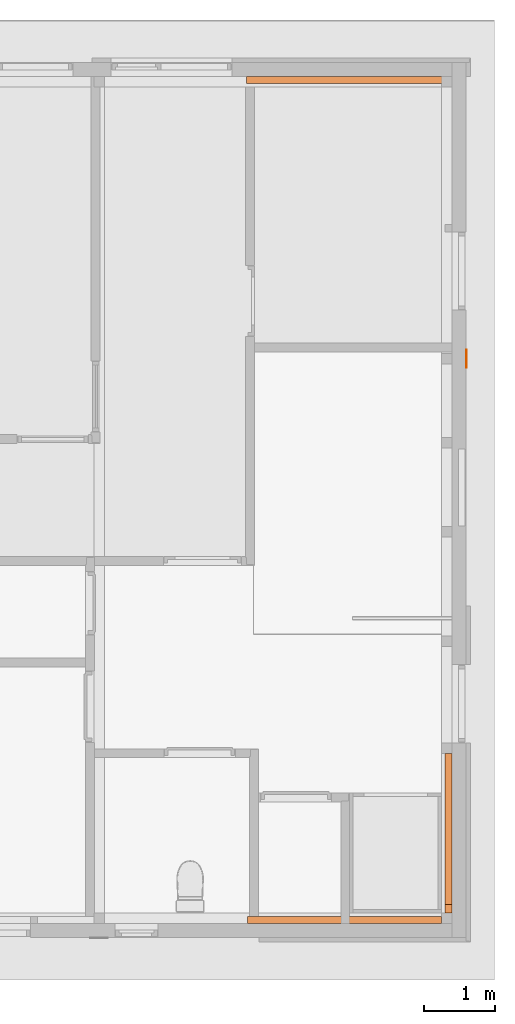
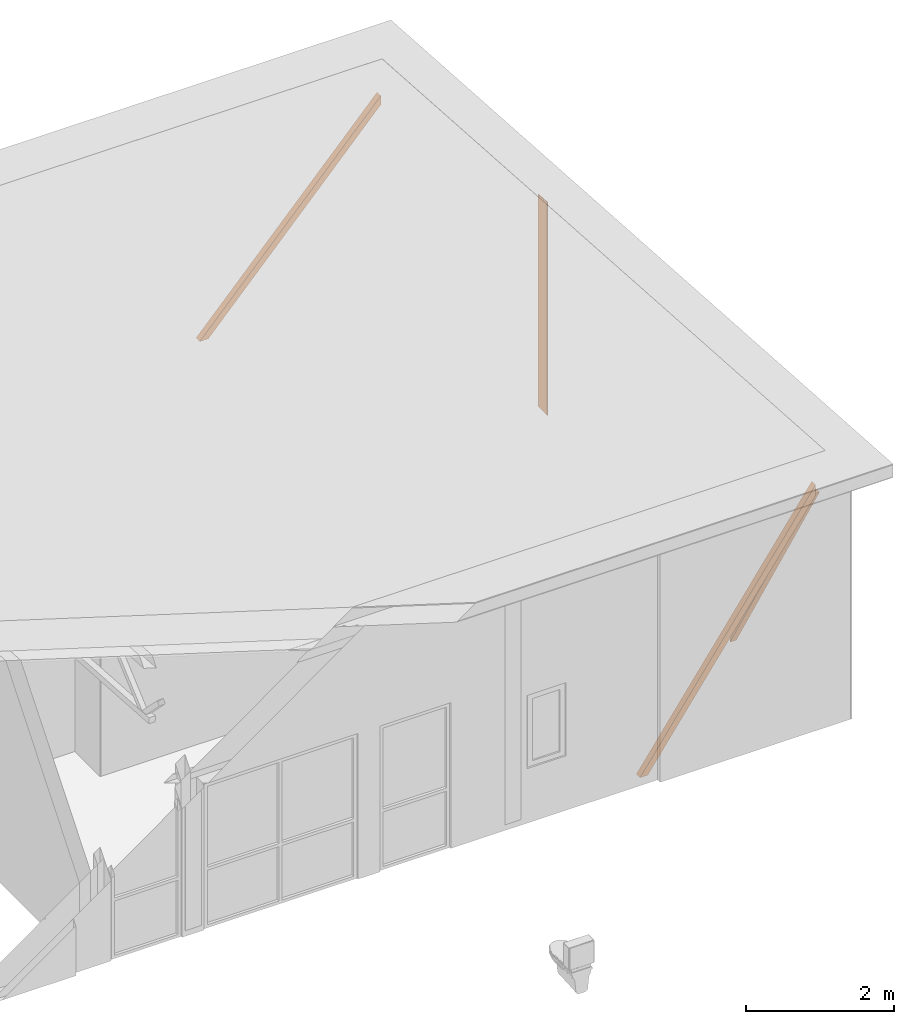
# One storey, part 37 of 37: 4 proxies.
"""IFC2X3 building model written with IfcOpenShell, lengths in millimetres."""

from ifc_helpers import new_model, entity, si_unit, converted_unit, frame, origin, place, context, subcontext, project, spatial, faceted_brep, material, element, save


model = new_model("IFC2X3")

# Units and contexts
model_context = context("Model", 3, precision=1e-05, world=origin())
plan_context = context("Plan", 3, precision=1e-05, world=origin())
body_context = subcontext(model_context, "Body", "Model", "MODEL_VIEW")
ifc_project = project(units=[si_unit("LENGTHUNIT", "METRE", prefix="MILLI"), converted_unit("PLANEANGLEUNIT", "DEGREE", entity("IfcPlaneAngleMeasure", 0.0174532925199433), si_unit("PLANEANGLEUNIT", "RADIAN"), dimensions=[0, 0, 0, 0, 0, 0, 0]), si_unit("AREAUNIT", "SQUARE_METRE"), si_unit("VOLUMEUNIT", "CUBIC_METRE")], contexts=[model_context, plan_context])

# Building, storey
building_placement = place(None, origin())
building = spatial("IfcBuilding", under=ifc_project, at=building_placement, Name="HEKF Administrasjonbygg", CompositionType="ELEMENT")
storey_placement = place(building_placement, frame((0.0, 0.0, 9900.0), z_axis=(0.0, 0.0, 1.0), x_axis=(1.0, 0.0, 0.0)))
storey = spatial("IfcBuildingStorey", under=building, at=storey_placement, Name="Plan 2", CompositionType="ELEMENT", Elevation=9900.0)

# Proxies
ifc_material_1 = material(Name="HUP100x200")
proxy_1_placement = place(storey_placement, frame((27089.54087540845, -100.0100000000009, -30.01000000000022), z_axis=(0.0, 0.0, 1.0), x_axis=(1.0, 0.0, 0.0)))
element("IfcBuildingElementProxy", 1, at=proxy_1_placement, inside=storey, material=ifc_material_1, context=body_context, shape_type="Brep", body=[
    faceted_brep([(0.01000000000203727, 100.01, 0.01000000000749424), (135.995931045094, 100.01, 0.01000000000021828), (2831.909124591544, 100.01, 2925.485574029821), (2831.909124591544, 100.01, 3073.050978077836), (135.995931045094, 0.009999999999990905, 0.01000000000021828), (0.01000000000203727, 0.009999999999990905, 0.01000000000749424), (2831.909124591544, 0.009999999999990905, 3073.050978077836), (2831.909124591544, 0.009999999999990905, 2925.485574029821), (135.995931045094, 100.01, 0.01000000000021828), (0.01000000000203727, 100.01, 0.01000000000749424), (0.01000000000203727, 0.009999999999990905, 0.01000000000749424), (135.995931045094, 0.009999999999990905, 0.01000000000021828), (2831.909124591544, 100.01, 2925.485574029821), (135.995931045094, 100.01, 0.01000000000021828), (135.995931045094, 0.009999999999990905, 0.01000000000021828), (2831.909124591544, 0.009999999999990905, 2925.485574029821), (2831.909124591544, 100.01, 3073.050978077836), (2831.909124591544, 100.01, 2925.485574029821), (2831.909124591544, 0.009999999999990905, 2925.485574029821), (2831.909124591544, 0.009999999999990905, 3073.050978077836), (0.01000000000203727, 100.01, 0.01000000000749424), (2831.909124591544, 100.01, 3073.050978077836), (2831.909124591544, 0.009999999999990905, 3073.050978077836), (0.01000000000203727, 0.009999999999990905, 0.01000000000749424)], [[[0, 1, 2, 3]], [[4, 5, 6, 7]], [[8, 9, 10, 11]], [[12, 13, 14, 15]], [[16, 17, 18, 19]], [[20, 21, 22, 23]]], orient=[[False], [False], [False], [False], [False], [False]]),
])
ifc_material_2 = material(Name="HUP100x200")
proxy_2_placement = place(storey_placement, frame((27103.0397879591, -12000.01, -30.00999999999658), z_axis=(0.0, 0.0, 1.0), x_axis=(1.0, 0.0, 0.0)))
element("IfcBuildingElementProxy", 2, at=proxy_2_placement, inside=storey, material=ifc_material_2, context=body_context, shape_type="Brep", body=[
    faceted_brep([(122.4970184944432, 0.01000000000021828, 0.01000000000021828), (0.00999999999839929, 0.01000000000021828, 0.01000000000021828), (2746.9602120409, 0.01000000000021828, 3883.592284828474), (2746.9602120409, 0.01000000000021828, 3710.422631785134), (0.00999999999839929, 100.0100000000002, 0.01000000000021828), (122.4970184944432, 100.0100000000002, 0.01000000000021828), (2746.9602120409, 100.0100000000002, 3710.422631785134), (2746.9602120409, 100.0100000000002, 3883.592284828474), (0.00999999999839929, 0.01000000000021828, 0.01000000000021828), (122.4970184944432, 0.01000000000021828, 0.01000000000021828), (122.4970184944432, 100.0100000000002, 0.01000000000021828), (0.00999999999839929, 100.0100000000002, 0.01000000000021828), (2746.9602120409, 0.01000000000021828, 3883.592284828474), (0.00999999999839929, 0.01000000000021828, 0.01000000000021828), (0.00999999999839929, 100.0100000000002, 0.01000000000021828), (2746.9602120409, 100.0100000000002, 3883.592284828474), (2746.9602120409, 0.01000000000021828, 3710.422631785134), (2746.9602120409, 0.01000000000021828, 3883.592284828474), (2746.9602120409, 100.0100000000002, 3883.592284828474), (2746.9602120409, 100.0100000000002, 3710.422631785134), (122.4970184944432, 0.01000000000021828, 0.01000000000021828), (2746.9602120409, 0.01000000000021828, 3710.422631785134), (2746.9602120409, 100.0100000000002, 3710.422631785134), (122.4970184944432, 100.0100000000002, 0.01000000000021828)], [[[0, 1, 2, 3]], [[4, 5, 6, 7]], [[8, 9, 10, 11]], [[12, 13, 14, 15]], [[16, 17, 18, 19]], [[20, 21, 22, 23]]], orient=[[False], [False], [False], [False], [False], [False]]),
])
ifc_material_3 = material(Name="HUP100x200")
proxy_3_placement = place(storey_placement, frame((29899.99000000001, -11850.00999999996, -230.0099999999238), z_axis=(0.0, 0.0, 1.0), x_axis=(1.0, 0.0, 0.0)))
element("IfcBuildingElementProxy", 3, at=proxy_3_placement, inside=storey, material=ifc_material_3, context=body_context, shape_type="Brep", body=[
    faceted_brep([(100.0099999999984, 2258.385925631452, 196.4816410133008), (100.0099999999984, 2258.385925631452, 0.01000000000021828), (100.0099999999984, 0.01000000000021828, 3819.344072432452), (100.0099999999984, 120.9513883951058, 3811.281313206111), (0.00999999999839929, 2258.385925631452, 0.01000000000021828), (0.00999999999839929, 2258.385925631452, 196.4816410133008), (0.00999999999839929, 120.9513883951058, 3811.281313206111), (0.00999999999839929, 0.01000000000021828, 3819.344072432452), (100.0099999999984, 2258.385925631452, 0.01000000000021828), (100.0099999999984, 2258.385925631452, 196.4816410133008), (0.00999999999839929, 2258.385925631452, 196.4816410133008), (0.00999999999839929, 2258.385925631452, 0.01000000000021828), (100.0099999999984, 0.01000000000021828, 3819.344072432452), (100.0099999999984, 2258.385925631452, 0.01000000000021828), (0.00999999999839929, 2258.385925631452, 0.01000000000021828), (0.00999999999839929, 0.01000000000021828, 3819.344072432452), (100.0099999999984, 120.9513883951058, 3811.281313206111), (100.0099999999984, 0.01000000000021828, 3819.344072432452), (0.00999999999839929, 0.01000000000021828, 3819.344072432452), (0.00999999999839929, 120.9513883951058, 3811.281313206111), (100.0099999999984, 2258.385925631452, 196.4816410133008), (100.0099999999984, 120.9513883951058, 3811.281313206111), (0.00999999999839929, 120.9513883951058, 3811.281313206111), (0.00999999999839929, 2258.385925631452, 196.4816410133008)], [[[0, 1, 2, 3]], [[4, 5, 6, 7]], [[8, 9, 10, 11]], [[12, 13, 14, 15]], [[16, 17, 18, 19]], [[20, 21, 22, 23]]], orient=[[False], [False], [False], [False], [False], [False]]),
])
ifc_material_4 = material(Name="T24")
proxy_4_placement = place(storey_placement, frame((30199.99, -4125.01, 100.9900000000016), z_axis=(0.0, 0.0, 1.0), x_axis=(1.0, 0.0, 0.0)))
element("IfcBuildingElementProxy", 4, at=proxy_4_placement, inside=storey, material=ifc_material_4, context=body_context, shape_type="Brep", body=[
    faceted_brep([(0.00999999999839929, 250.0100000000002, 0.00999999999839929), (10.0099999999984, 250.0100000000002, 0.00999999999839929), (10.0099999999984, 250.0100000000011, 3507.343333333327), (0.00999999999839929, 250.0100000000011, 3507.343333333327), (0.00999999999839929, 0.01000000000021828, 0.00999999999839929), (10.0099999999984, 0.01000000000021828, 0.00999999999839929), (10.0099999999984, 250.0100000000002, 0.00999999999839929), (0.00999999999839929, 250.0100000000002, 0.00999999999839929), (0.00999999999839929, 0.01000000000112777, 3524.009999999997), (10.0099999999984, 0.01000000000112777, 3524.009999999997), (10.0099999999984, 0.01000000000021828, 0.00999999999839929), (0.00999999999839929, 0.01000000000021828, 0.00999999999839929), (0.00999999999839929, 250.0100000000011, 3507.343333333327), (10.0099999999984, 250.0100000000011, 3507.343333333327), (10.0099999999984, 0.01000000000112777, 3524.009999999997), (0.00999999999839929, 0.01000000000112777, 3524.009999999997), (10.0099999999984, 250.0100000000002, 0.00999999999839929), (10.0099999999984, 0.01000000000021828, 0.00999999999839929), (10.0099999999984, 0.01000000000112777, 3524.009999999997), (10.0099999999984, 250.0100000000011, 3507.343333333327), (0.00999999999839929, 0.01000000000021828, 0.00999999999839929), (0.00999999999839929, 250.0100000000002, 0.00999999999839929), (0.00999999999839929, 250.0100000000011, 3507.343333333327), (0.00999999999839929, 0.01000000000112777, 3524.009999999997)], [[[0, 1, 2, 3]], [[4, 5, 6, 7]], [[8, 9, 10, 11]], [[12, 13, 14, 15]], [[16, 17, 18, 19]], [[20, 21, 22, 23]]], orient=[[False], [False], [False], [False], [False], [False]]),
])

save(model, "model.ifc")
